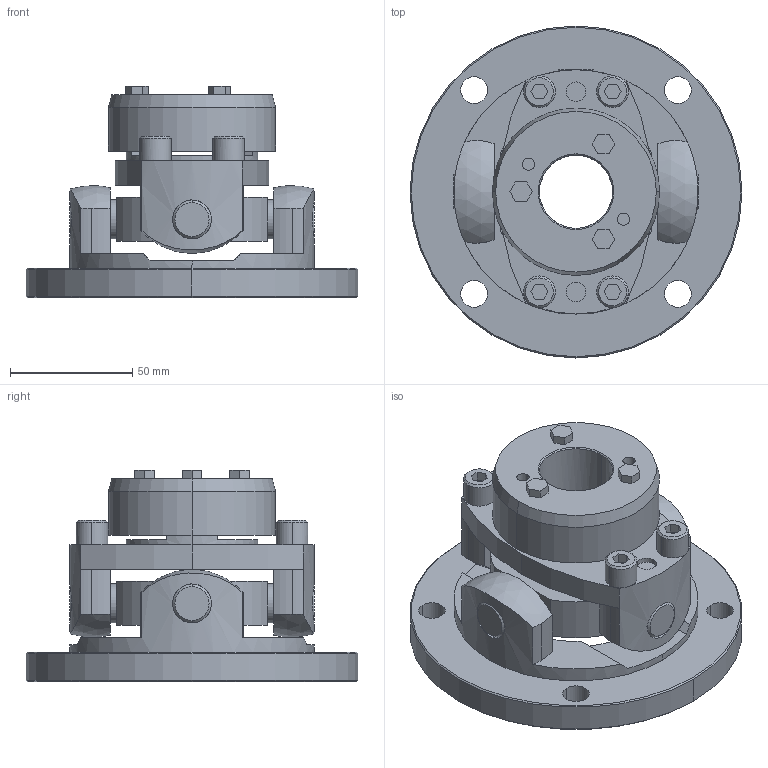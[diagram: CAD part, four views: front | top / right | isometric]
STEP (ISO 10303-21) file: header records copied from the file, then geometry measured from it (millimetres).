
FILE_DESCRIPTION((''),'2;1');
FILE_NAME('UCNF-100T7-30.stp','2011-09-17T16:44:41',(''),(''),'AutoCAD STEP 2000i','AutoCAD 2000i',', , ');
FILE_SCHEMA(('CONFIG_CONTROL_DESIGN'));
Length unit declared in the file: millimetre
Products named in the file (8): UCNF-100T7-30; 忣兜1; UCN100T7-T030; UCN100T7-T025; UCNF-10002; UCN100T7-T022-1; UCN100T7-T022; UCN100-SEN
Assembly tree (7 placements, depth 2):
  UCNF-100T7-30
    忣兜1
    UCN100T7-T030
    UCN100T7-T025
    UCNF-10002
    UCN100T7-T022-1
    UCN100T7-T022
    UCN100-SEN
Bounding box: 136 x 136 x 86.5 mm (x, y, z)
Volume: 380532.6 mm3; surface area: 85616.8 mm2
Topology: 1 solids, 1 shells, 275 faces, 688 edges, 448 vertices
Faces by surface type: plane 129, cylinder 104, cone 38, sphere 4
Entity records: 8891 total; most frequent: CARTESIAN_POINT 1823, DIRECTION 1536, ORIENTED_EDGE 1376, EDGE_CURVE 688, AXIS2_PLACEMENT_3D 581, VERTEX_POINT 448, VECTOR 374, LINE 374
